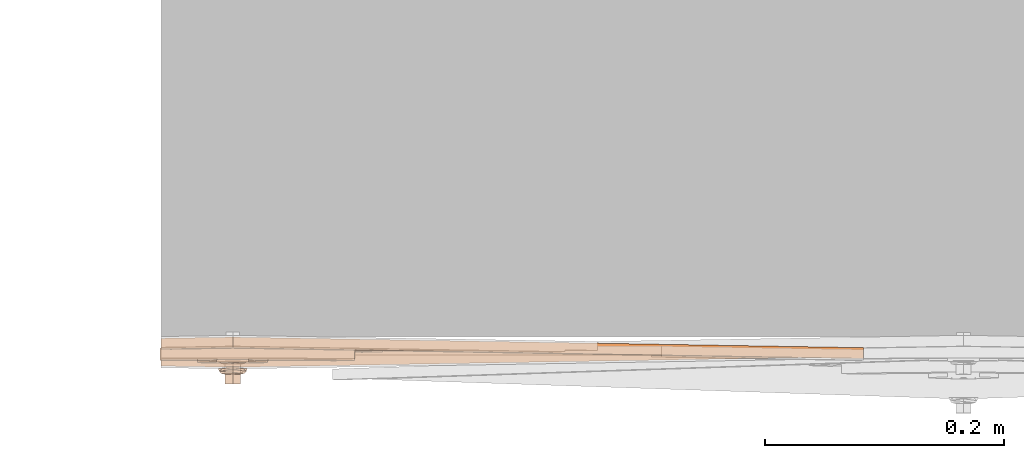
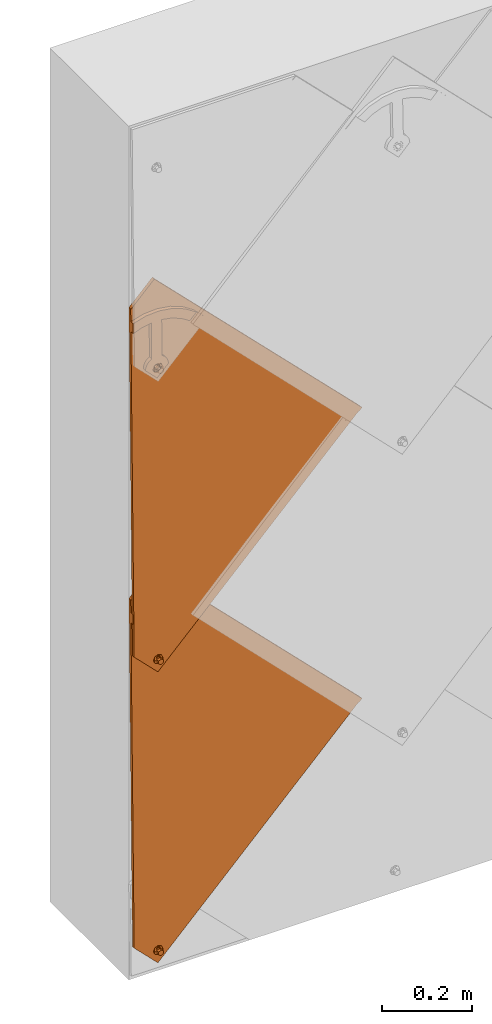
# One storey, part 1 of 151: 2 proxies.
"""IFC2X3 building model written with IfcOpenShell, lengths in millimetres."""

from ifc_helpers import new_model, entity, si_unit, converted_unit, derived_unit, direction, frame, origin, place, context, subcontext, project, spatial, faceted_brep, source, transform, mapped, material, material_list, type_object, type_shapes, element, save


model = new_model("IFC2X3")

# Units and contexts
model_context = context("Model", 3, precision=0.01, world=origin(), true_north=direction((6.12303176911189e-17, 1.0)))
body_context = subcontext(model_context, "Body", "Model", "MODEL_VIEW")
ifc_project = project(units=[si_unit("LENGTHUNIT", "METRE", prefix="MILLI"), si_unit("AREAUNIT", "SQUARE_METRE"), si_unit("VOLUMEUNIT", "CUBIC_METRE"), converted_unit("PLANEANGLEUNIT", "DEGREE", entity("IfcRatioMeasure", 0.0174532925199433), si_unit("PLANEANGLEUNIT", "RADIAN"), dimensions=[0, 0, 0, 0, 0, 0, 0]), si_unit("MASSUNIT", "GRAM", prefix="KILO"), derived_unit("MASSDENSITYUNIT", [(si_unit("MASSUNIT", "GRAM", prefix="KILO"), 1), (si_unit("LENGTHUNIT", "METRE"), -3)]), si_unit("TIMEUNIT", "SECOND"), si_unit("FREQUENCYUNIT", "HERTZ"), si_unit("THERMODYNAMICTEMPERATUREUNIT", "DEGREE_CELSIUS"), derived_unit("THERMALTRANSMITTANCEUNIT", [(si_unit("MASSUNIT", "GRAM", prefix="KILO"), 1), (si_unit("THERMODYNAMICTEMPERATUREUNIT", "KELVIN"), -1), (si_unit("TIMEUNIT", "SECOND"), -3)]), derived_unit("VOLUMETRICFLOWRATEUNIT", [(si_unit("LENGTHUNIT", "METRE"), 3), (si_unit("TIMEUNIT", "SECOND"), -1)]), si_unit("ELECTRICCURRENTUNIT", "AMPERE"), si_unit("ELECTRICVOLTAGEUNIT", "VOLT"), si_unit("POWERUNIT", "WATT"), si_unit("FORCEUNIT", "NEWTON", prefix="KILO"), si_unit("ILLUMINANCEUNIT", "LUX"), si_unit("LUMINOUSFLUXUNIT", "LUMEN"), si_unit("LUMINOUSINTENSITYUNIT", "CANDELA"), derived_unit("USERDEFINED", [(si_unit("MASSUNIT", "GRAM", prefix="KILO"), -1), (si_unit("LENGTHUNIT", "METRE"), -2), (si_unit("TIMEUNIT", "SECOND"), 3), (si_unit("LUMINOUSFLUXUNIT", "LUMEN"), 1)]), derived_unit("LINEARVELOCITYUNIT", [(si_unit("LENGTHUNIT", "METRE"), 1), (si_unit("TIMEUNIT", "SECOND"), -1)]), si_unit("PRESSUREUNIT", "PASCAL"), derived_unit("USERDEFINED", [(si_unit("LENGTHUNIT", "METRE"), -2), (si_unit("MASSUNIT", "GRAM", prefix="KILO"), 1), (si_unit("TIMEUNIT", "SECOND"), -2)])], contexts=[model_context])

# Site, building, storey
site_placement = place(None, origin())
site = spatial("IfcSite", under=ifc_project, at=site_placement, Name="Default", CompositionType="ELEMENT")
building_placement = place(site_placement, origin())
building = spatial("IfcBuilding", under=site, at=building_placement, CompositionType="ELEMENT")
storey_placement = place(building_placement, origin())
storey = spatial("IfcBuildingStorey", under=building, at=storey_placement, Name="Level 1", CompositionType="ELEMENT", Elevation=0.0)

# Proxies
ifc_material_1 = material(Name="Rubber - Sunstyle - Black")
ifc_material_2 = material(Name="Glass - Sunstyle - Tainted Terracotta")
ifc_material_list_1 = material_list([ifc_material_1, ifc_material_2])
ifc_material_list_2 = material_list([ifc_material_1, ifc_material_2])
building_element_proxy_type = type_object("IfcBuildingElementProxyType", Name="Shingle Left - Terracotta", PredefinedType="NOTDEFINED", material=ifc_material_list_2)
shared_shape = source(origin(), body_context, "Body", "Brep", [
    faceted_brep([(0.0, -484.792260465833, 4.00636906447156), (-5.77420283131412, -488.125530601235, 4.06219304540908), (-5.77420283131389, -487.757221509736, 26.0540623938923), (0.0, -484.423951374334, 25.9982384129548), (-5.77420283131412, -494.792070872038, 4.17384100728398), (-5.7742028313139, -494.42376178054, 26.1657103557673), (0.0, -498.12534100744, 4.22966498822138), (0.0, -497.757031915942, 26.2215343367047), (5.77420283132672, -494.792070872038, 4.17384100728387), (5.77420283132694, -494.42376178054, 26.1657103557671), (5.77420283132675, -488.125530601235, 4.06219304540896), (5.77420283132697, -487.757221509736, 26.0540623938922), (-8.60370416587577, -499.692989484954, 26.2539568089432), (0.0, -503.256260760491, 26.3136327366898), (-12.1674751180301, -491.090491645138, 26.1098863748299), (-8.60370416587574, -482.487993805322, 25.9658159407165), (0.0, -478.924722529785, 25.9061400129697), (8.60370416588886, -482.487993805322, 25.9658159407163), (12.1674751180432, -491.090491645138, 26.1098863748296), (8.60370416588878, -499.692989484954, 26.253956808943), (-11.324244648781, -488.795414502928, 28.4227283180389), (-9.75647455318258, -491.019476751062, 30.3502110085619), (0.0, -483.706401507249, 30.9829114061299), (0.0, -482.465903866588, 30.4025647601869), (0.0, -480.308353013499, 29.3931896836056), (0.0, -502.700216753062, 27.5886907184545), (0.0, -501.756640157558, 29.7523951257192), (0.0, -498.307264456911, 31.2274395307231), (0.0, -479.437758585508, 27.1991024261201), (-6.32324569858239, -494.657048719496, 31.1663074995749), (-6.32324569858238, -487.356617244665, 31.0440434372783), (11.3242446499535, -493.306834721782, 28.498283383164), (9.84888015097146, -492.093883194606, 30.2713428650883), (6.32324569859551, -487.356617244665, 31.0440434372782), (6.32324569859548, -494.657048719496, 31.1663074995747), (-6.32324569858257, -494.523020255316, 39.1691956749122), (0.0, -498.173235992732, 39.2303277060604), (0.0, -490.8728045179, 39.1080636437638), (-6.32324569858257, -487.222588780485, 39.0469316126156), (6.32324569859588, -494.523020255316, 39.1691956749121), (6.32324569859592, -487.222588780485, 39.0469316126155), (0.0, -483.572373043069, 38.9857995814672), (0.0, -491.458800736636, 4.11801702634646)], [[[0, 1, 2, 3]], [[1, 4, 5, 2]], [[4, 6, 7, 5]], [[6, 8, 9, 7]], [[8, 10, 11, 9]], [[10, 0, 3, 11]], [[12, 7, 13]], [[7, 12, 5]], [[14, 5, 12]], [[5, 14, 2]], [[15, 2, 14]], [[3, 2, 15]], [[15, 16, 3]], [[16, 17, 3]], [[11, 3, 17]], [[11, 17, 18]], [[9, 11, 18]], [[18, 19, 9]], [[7, 9, 19]], [[19, 13, 7]], [[20, 14, 12]], [[21, 22, 23, 24]], [[24, 20, 21]], [[25, 20, 12]], [[26, 27, 21]], [[15, 14, 20]], [[12, 13, 25]], [[20, 28, 15]], [[28, 20, 24]], [[21, 27, 29]], [[21, 29, 30]], [[26, 21, 20]], [[20, 25, 26]], [[15, 28, 16]], [[21, 30, 22]], [[31, 18, 17]], [[28, 31, 17]], [[32, 27, 26]], [[26, 31, 32]], [[26, 25, 31]], [[25, 19, 31]], [[17, 16, 28]], [[31, 19, 18]], [[24, 31, 28]], [[33, 34, 32]], [[23, 22, 33]], [[24, 32, 31]], [[27, 32, 34]], [[32, 23, 33]], [[19, 25, 13]], [[32, 24, 23]], [[35, 36, 37]], [[37, 38, 35]], [[36, 39, 37]], [[40, 37, 39]], [[37, 40, 41]], [[37, 41, 38]], [[42, 6, 4]], [[4, 1, 42]], [[1, 0, 42]], [[42, 8, 6]], [[0, 10, 42]], [[8, 42, 10]], [[22, 30, 38, 41]], [[30, 29, 35, 38]], [[29, 27, 36, 35]], [[27, 34, 39, 36]], [[34, 33, 40, 39]], [[33, 22, 41, 40]]]),
    faceted_brep([(0.0, 284.339364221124, 20.2838091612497), (0.0, 288.838732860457, 20.2084559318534), (-8.60370416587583, 287.902635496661, 20.224133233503), (8.60370416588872, 287.902635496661, 20.2241332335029), (6.64022859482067, 292.671933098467, 20.1442593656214), (12.1674751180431, 296.505133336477, 20.0800627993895), (6.64022859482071, 300.338333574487, 20.0158662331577), (8.6037041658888, 305.107631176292, 19.9359923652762), (0.0, 304.171533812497, 19.9516696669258), (0.0, 308.670902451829, 19.8763164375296), (-8.60370416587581, 305.107631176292, 19.9359923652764), (-6.64022859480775, 300.338333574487, 20.0158662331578), (-12.1674751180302, 296.505133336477, 20.0800627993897), (-6.64022859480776, 292.671933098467, 20.1442593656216), (-6.64022823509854, 300.070410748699, 4.01810959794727), (0.0, 303.90361077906, 3.95391303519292), (-6.64022823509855, 292.404010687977, 4.14650272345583), (0.0, 288.570810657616, 4.21069928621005), (6.64022823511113, 292.404010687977, 4.1465027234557), (6.64022823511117, 300.070410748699, 4.01810959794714), (-8.603704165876, 287.634712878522, 4.22637659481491), (0.0, 284.071441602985, 4.28605252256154), (-12.1674751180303, 296.237210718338, 4.08230616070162), (-8.60370416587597, 304.839708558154, 3.93823572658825), (0.0, 308.402979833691, 3.87855979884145), (8.60370416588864, 304.839708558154, 3.93823572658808), (12.1674751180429, 296.237210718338, 4.08230616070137), (8.60370416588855, 287.634712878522, 4.22637659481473)], [[[0, 1, 2]], [[1, 0, 3]], [[3, 4, 1]], [[4, 3, 5]], [[6, 4, 5]], [[5, 7, 6]], [[7, 8, 6]], [[8, 7, 9]], [[8, 9, 10]], [[10, 11, 8]], [[12, 11, 10]], [[2, 13, 12]], [[12, 13, 11]], [[13, 2, 1]], [[8, 11, 14, 15]], [[11, 13, 16, 14]], [[13, 1, 17, 16]], [[1, 4, 18, 17]], [[4, 6, 19, 18]], [[6, 8, 15, 19]], [[20, 17, 21]], [[17, 20, 16]], [[22, 16, 20]], [[14, 16, 22]], [[23, 14, 22]], [[15, 14, 23]], [[23, 24, 15]], [[24, 25, 15]], [[19, 15, 25]], [[19, 25, 26]], [[26, 18, 19]], [[26, 27, 18]], [[17, 18, 27]], [[27, 21, 17]], [[24, 23, 10, 9]], [[10, 23, 22, 12]], [[20, 21, 0, 2]], [[20, 2, 12, 22]], [[21, 27, 3, 0]], [[3, 27, 26, 5]], [[25, 24, 9, 7]], [[25, 7, 5, 26]]]),
    faceted_brep([(518.309865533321, -8.21171787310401, 16.4411500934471), (526.794551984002, 0.272968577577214, 16.299052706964), (526.794551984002, 0.298086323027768, 17.798842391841), (518.309865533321, -8.18660012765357, 17.9409397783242), (0.0, 509.952813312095, 7.76318349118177), (-51.6190674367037, 458.348219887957, 8.62743202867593), (-60.1037538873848, 466.832906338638, 8.48533464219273), (0.0, 526.919807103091, 7.47902856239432), (0.0, 526.944924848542, 8.97881824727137), (-60.1037538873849, 466.858024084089, 9.98512432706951), (-51.6190674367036, 458.373337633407, 10.1272217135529), (0.0, 509.977931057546, 9.26297317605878)], [[[0, 1, 2, 3]], [[1, 0, 4, 5, 6, 7]], [[2, 1, 7, 8]], [[3, 2, 8, 9, 10, 11]], [[0, 3, 11, 4]], [[5, 10, 9, 6]], [[8, 7, 6, 9]], [[4, 11, 10, 5]]]),
    faceted_brep([(3.08877637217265, 308.328619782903, 11.1398870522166), (0.0, 526.91980710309, 7.47902856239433), (-60.1037538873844, 466.832906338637, 8.48533464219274), (5.98294783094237, 307.129982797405, 11.1599612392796), (-0.0170521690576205, 308.737452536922, 11.133040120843), (8.46822920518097, 305.223226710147, 11.1918946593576), (10.3752526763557, 302.738293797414, 11.2335111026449), (11.5740577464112, 299.844528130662, 11.2819744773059), (526.794551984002, 0.272968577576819, 16.299052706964), (11.9829478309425, 296.739135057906, 11.3339820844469), (11.5740577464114, 293.63374198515, 11.3859896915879), (10.3752526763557, 290.739976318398, 11.4344530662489), (8.46822920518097, 288.255043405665, 11.4760695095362), (5.9829478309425, 286.348287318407, 11.5080029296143), (3.08877637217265, 285.149650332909, 11.5280771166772), (2.03352718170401, -483.329519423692, 24.3981910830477), (-60.1037538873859, -466.286969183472, 24.112770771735), (-0.0170521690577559, 284.74081757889, 11.5349240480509), (-3.12288071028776, 285.149650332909, 11.5280771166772), (-6.01705216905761, 286.348287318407, 11.5080029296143), (-8.50233354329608, 288.255043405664, 11.4760695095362), (-10.409357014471, 290.739976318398, 11.4344530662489), (-11.6081620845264, 293.63374198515, 11.3859896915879), (-12.0170521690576, 296.739135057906, 11.3339820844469), (-11.6081620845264, 299.844528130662, 11.2819744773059), (-10.4093570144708, 302.738293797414, 11.2335111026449), (-8.50233354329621, 305.223226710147, 11.1918946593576), (-6.01705216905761, 307.129982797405, 11.1599612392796), (-3.12288071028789, 308.328619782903, 11.1398870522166), (-0.0370251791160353, -483.056964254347, 24.3936264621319), (-2.10757753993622, -483.329519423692, 24.3981910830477), (-4.03702517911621, -484.128610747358, 24.411573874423), (-5.69387942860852, -485.399781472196, 24.4328628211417), (-6.96522840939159, -487.056403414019, 24.4606071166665), (-7.76443178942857, -488.985580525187, 24.4929160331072), (-8.03702517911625, -491.055842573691, 24.5275877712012), (-7.76443178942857, -493.126104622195, 24.5622595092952), (-6.96522840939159, -495.055281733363, 24.5945684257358), (0.0, -526.373869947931, 25.1190768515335), (-5.69387942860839, -496.711903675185, 24.6223127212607), (-4.03702517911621, -497.983074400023, 24.6436016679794), (-2.10757753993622, -498.782165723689, 24.6569844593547), (-0.0370251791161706, -499.054720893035, 24.6615490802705), (2.03352718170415, -498.782165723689, 24.6569844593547), (3.96297482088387, -497.983074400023, 24.6436016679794), (5.61982907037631, -496.711903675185, 24.6223127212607), (6.89117805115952, -495.055281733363, 24.5945684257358), (7.6903814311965, -493.126104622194, 24.5622595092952), (3.96297482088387, -484.128610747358, 24.411573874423), (5.61982907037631, -485.399781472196, 24.4328628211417), (6.89117805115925, -487.056403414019, 24.4606071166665), (7.6903814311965, -488.985580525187, 24.4929160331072), (7.96297482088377, -491.055842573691, 24.5275877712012), (-60.1037538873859, -466.412557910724, 16.6138223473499), (-6.96522840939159, -487.181992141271, 16.9616586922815), (-7.7644317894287, -489.111169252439, 16.9939676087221), (-5.69387942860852, -485.525370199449, 16.9339143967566), (-8.03702517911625, -491.181431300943, 17.0286393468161), (-7.76443178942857, -493.251693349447, 17.0633110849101), (-6.96522840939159, -495.180870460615, 17.0956200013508), (0.0, -526.499458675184, 17.6201284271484), (-4.03702517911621, -484.254199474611, 16.9126254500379), (-2.10757753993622, -483.455108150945, 16.8992426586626), (-0.0370251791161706, -483.182552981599, 16.8946780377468), (2.03352718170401, -483.455108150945, 16.8992426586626), (3.08877637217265, 285.024061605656, 4.02912869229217), (-0.0170521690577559, 284.615228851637, 4.03597562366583), (-3.12288071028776, 285.024061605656, 4.02912869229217), (-6.01705216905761, 286.222698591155, 4.00905450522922), (-8.50233354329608, 288.129454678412, 3.97712108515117), (-10.409357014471, 290.614387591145, 3.93550464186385), (-11.6081620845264, 293.508153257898, 3.88704126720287), (-60.1037538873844, 466.707317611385, 0.986386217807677), (-12.0170521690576, 296.613546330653, 3.83503366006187), (-11.6081620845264, 299.718939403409, 3.78302605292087), (-10.4093570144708, 302.612705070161, 3.73456267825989), (-8.50233354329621, 305.097637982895, 3.69294623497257), (-6.01705216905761, 307.004394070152, 3.66101281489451), (-3.12288071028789, 308.203031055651, 3.64093862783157), (-0.0170521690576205, 308.61186380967, 3.63409169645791), (3.08877637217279, 308.203031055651, 3.64093862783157), (0.0, 526.794218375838, -0.0199198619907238), (5.98294783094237, 307.004394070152, 3.66101281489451), (8.46822920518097, 305.097637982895, 3.69294623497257), (10.3752526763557, 302.612705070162, 3.73456267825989), (11.5740577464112, 299.718939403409, 3.78302605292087), (526.794551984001, 0.147379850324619, 8.8001042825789), (3.96297482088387, -484.254199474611, 16.9126254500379), (5.61982907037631, -485.525370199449, 16.9339143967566), (7.6903814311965, -493.251693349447, 17.0633110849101), (7.96297482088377, -491.181431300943, 17.0286393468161), (7.6903814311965, -489.111169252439, 16.9939676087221), (6.89117805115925, -487.181992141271, 16.9616586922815), (5.9829478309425, 286.222698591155, 4.00905450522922), (8.46822920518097, 288.129454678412, 3.97712108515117), (11.9829478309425, 296.613546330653, 3.83503366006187), (11.5740577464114, 293.508153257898, 3.88704126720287), (10.3752526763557, 290.614387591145, 3.93550464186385), (-5.69387942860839, -496.837492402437, 17.1233642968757), (-4.03702517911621, -498.108663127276, 17.1446532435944), (-2.10757753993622, -498.907754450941, 17.1580360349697), (-0.0370251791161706, -499.180309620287, 17.1626006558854), (2.03352718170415, -498.907754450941, 17.1580360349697), (3.96297482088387, -498.108663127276, 17.1446532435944), (5.61982907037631, -496.837492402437, 17.1233642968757), (6.89117805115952, -495.180870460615, 17.0956200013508)], [[[0, 1, 2]], [[0, 3, 1]], [[4, 0, 2]], [[1, 3, 5]], [[6, 1, 5]], [[7, 1, 6]], [[7, 8, 1]], [[9, 8, 7]], [[8, 9, 10]], [[8, 10, 11]], [[11, 12, 8]], [[12, 13, 8]], [[13, 14, 8]], [[14, 15, 8]], [[14, 16, 15]], [[16, 14, 17]], [[16, 17, 18]], [[16, 18, 19]], [[20, 16, 19]], [[20, 21, 16]], [[21, 22, 16]], [[23, 2, 22]], [[2, 16, 22]], [[23, 24, 2]], [[25, 2, 24]], [[25, 26, 2]], [[26, 27, 2]], [[28, 2, 27]], [[4, 2, 28]], [[16, 29, 15]], [[29, 16, 30]], [[30, 16, 31]], [[16, 32, 31]], [[32, 16, 33]], [[33, 16, 34]], [[35, 34, 16]], [[35, 16, 36]], [[37, 36, 16]], [[16, 38, 37]], [[39, 37, 38]], [[40, 39, 38]], [[41, 40, 38]], [[38, 42, 41]], [[42, 38, 43]], [[44, 43, 38]], [[44, 38, 45]], [[46, 45, 38]], [[47, 46, 38]], [[47, 38, 8]], [[48, 8, 15]], [[48, 49, 8]], [[50, 8, 49]], [[51, 8, 50]], [[52, 47, 8]], [[52, 8, 51]], [[53, 54, 55]], [[54, 53, 56]], [[53, 55, 57]], [[57, 58, 53]], [[58, 59, 53]], [[53, 59, 60]], [[61, 56, 53]], [[62, 61, 53]], [[62, 53, 63]], [[64, 63, 53]], [[53, 65, 64]], [[65, 53, 66]], [[66, 53, 67]], [[67, 53, 68]], [[69, 68, 53]], [[70, 69, 53]], [[71, 70, 53]], [[71, 53, 72]], [[73, 71, 72]], [[74, 73, 72]], [[75, 74, 72]], [[76, 75, 72]], [[72, 77, 76]], [[78, 77, 72]], [[79, 78, 72]], [[79, 72, 80]], [[80, 72, 81]], [[82, 80, 81]], [[81, 83, 82]], [[83, 81, 84]], [[84, 81, 85]], [[86, 85, 81]], [[64, 86, 87]], [[88, 87, 86]], [[60, 89, 86]], [[90, 86, 89]], [[90, 91, 86]], [[91, 92, 86]], [[88, 86, 92]], [[65, 86, 64]], [[65, 93, 86]], [[93, 94, 86]], [[86, 95, 85]], [[95, 86, 96]], [[97, 96, 86]], [[97, 86, 94]], [[98, 60, 59]], [[98, 99, 60]], [[99, 100, 60]], [[101, 60, 100]], [[60, 101, 102]], [[60, 102, 103]], [[103, 104, 60]], [[104, 105, 60]], [[105, 89, 60]], [[2, 1, 81, 72]], [[38, 16, 53, 60]], [[8, 38, 60, 86]], [[1, 8, 86, 81]], [[35, 57, 55, 34]], [[34, 55, 54, 33]], [[31, 32, 56, 61]], [[56, 32, 33, 54]], [[30, 31, 61, 62]], [[30, 62, 63, 29]], [[29, 63, 64, 15]], [[15, 64, 87, 48]], [[50, 49, 88, 92]], [[88, 49, 48, 87]], [[51, 50, 92, 91]], [[51, 91, 90, 52]], [[52, 90, 89, 47]], [[47, 89, 105, 46]], [[44, 45, 104, 103]], [[104, 45, 46, 105]], [[43, 44, 103, 102]], [[43, 102, 101, 42]], [[42, 101, 100, 41]], [[41, 100, 99, 40]], [[37, 39, 98, 59]], [[98, 39, 40, 99]], [[36, 37, 59, 58]], [[36, 58, 57, 35]], [[23, 73, 74, 24]], [[24, 74, 75, 25]], [[27, 26, 76, 77]], [[76, 26, 25, 75]], [[28, 27, 77, 78]], [[28, 78, 79, 4]], [[4, 79, 80, 0]], [[0, 80, 82, 3]], [[6, 5, 83, 84]], [[83, 5, 3, 82]], [[7, 6, 84, 85]], [[7, 85, 95, 9]], [[9, 95, 96, 10]], [[10, 96, 97, 11]], [[13, 12, 94, 93]], [[94, 12, 11, 97]], [[14, 13, 93, 65]], [[14, 65, 66, 17]], [[17, 66, 67, 18]], [[18, 67, 68, 19]], [[21, 20, 69, 70]], [[69, 20, 19, 68]], [[22, 21, 70, 71]], [[22, 71, 73, 23]], [[16, 2, 72, 53]]]),
    faceted_brep([(-60.2957264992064, 433.002673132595, 19.0533091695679), (-60.2957264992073, 406.276440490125, 19.5009070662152), (-37.4519584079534, 414.732964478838, 19.3592813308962), (-27.2461400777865, 442.315205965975, 18.8973474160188), (-13.4919726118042, 419.124350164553, 19.2857365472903), (7.02526451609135, 444.434715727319, 18.8618509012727), (13.1080273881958, 419.12435016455, 19.2857365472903), (13.1080273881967, 322.716549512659, 20.9003273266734), (-13.4919726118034, 322.716549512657, 20.9003273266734), (-0.191972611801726, 308.510747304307, 21.1382391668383), (-3.29780115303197, 308.101914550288, 21.145086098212), (-6.19197261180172, 306.90327756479, 21.1651602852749), (-18.8960787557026, 319.178501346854, 20.9595808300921), (-8.67725398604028, 304.996521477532, 21.197093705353), (-23.3966230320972, 314.545495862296, 21.0371721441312), (-10.584277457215, 302.511588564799, 21.2387101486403), (-26.776192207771, 309.041345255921, 21.1293529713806), (-11.7830825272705, 299.617822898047, 21.2871735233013), (-28.8715253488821, 302.931945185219, 21.231670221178), (-12.1919726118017, 296.512429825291, 21.3391811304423), (-29.5814006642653, 296.512429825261, 21.3391811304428), (-11.7830825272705, 293.407036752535, 21.3911887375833), (-10.5842774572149, 290.513271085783, 21.4396521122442), (-8.67725398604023, 288.028338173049, 21.4812685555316), (-0.191972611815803, 267.127122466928, 21.8313119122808), (-6.19197261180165, 286.121582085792, 21.5132019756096), (-3.2978011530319, 284.922945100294, 21.5332761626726), (-0.19197261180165, 284.514112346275, 21.5401230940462), (2.9138559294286, 284.922945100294, 21.5332761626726), (5.80802738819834, 286.121582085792, 21.5132019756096), (8.29330876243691, 288.028338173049, 21.4812685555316), (29.197455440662, 296.512429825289, 21.3391811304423), (10.2003322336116, 290.513271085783, 21.4396521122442), (11.3991373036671, 293.407036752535, 21.3911887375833), (11.8080273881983, 296.512429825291, 21.3391811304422), (28.4875801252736, 302.931945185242, 21.2316702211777), (11.3991373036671, 299.617822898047, 21.2871735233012), (26.3922469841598, 309.041345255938, 21.1293529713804), (10.2003322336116, 302.511588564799, 21.2387101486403), (23.0126778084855, 314.545495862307, 21.037172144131), (8.29330876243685, 304.996521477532, 21.197093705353), (18.5121335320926, 319.178501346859, 20.959580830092), (5.80802738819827, 306.90327756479, 21.1651602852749), (2.91385592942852, 308.101914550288, 21.145086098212), (40.9707248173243, 439.265481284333, 18.9484227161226), (38.5777701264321, 414.309469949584, 19.3663738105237), (73.0571986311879, 427.0409551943, 19.1531531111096), (62.7323605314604, 404.905836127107, 19.523861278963), (84.7524233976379, 391.232440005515, 19.7528566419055), (101.835599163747, 408.313220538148, 19.4667960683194), (-10.5842774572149, 290.345819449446, 11.4410542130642), (-29.5814006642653, 296.344978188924, 11.3405832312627), (-11.7830825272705, 293.239585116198, 11.3925908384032), (-8.67725398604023, 287.860886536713, 11.4826706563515), (-0.191972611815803, 266.959670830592, 11.8327140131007), (-6.19197261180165, 285.954130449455, 11.5146040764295), (-3.2978011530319, 284.755493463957, 11.5346782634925), (-0.19197261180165, 284.346660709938, 11.5415251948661), (2.9138559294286, 284.755493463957, 11.5346782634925), (5.80802738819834, 285.954130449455, 11.5146040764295), (8.29330876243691, 287.860886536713, 11.4826706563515), (29.197455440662, 296.344978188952, 11.3405832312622), (10.2003322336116, 290.345819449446, 11.4410542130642), (11.3991373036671, 293.239585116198, 11.3925908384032), (11.8080273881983, 296.344978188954, 11.3405832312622), (28.4875801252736, 302.764493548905, 11.2330723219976), (11.3991373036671, 299.45037126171, 11.2885756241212), (26.3922469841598, 308.873893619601, 11.1307550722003), (10.2003322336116, 302.344136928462, 11.2401122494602), (23.0126778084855, 314.378044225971, 11.038574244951), (8.29330876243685, 304.829069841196, 11.1984958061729), (18.5121335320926, 319.011049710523, 10.960982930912), (5.80802738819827, 306.735825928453, 11.1665623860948), (13.1080273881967, 322.549097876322, 10.9017294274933), (2.91385592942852, 307.934462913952, 11.1464881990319), (-0.191972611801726, 308.34329566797, 11.1396412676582), (-13.4919726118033, 322.54909787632, 10.9017294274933), (-3.29780115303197, 307.934462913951, 11.1464881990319), (-6.19197261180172, 306.735825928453, 11.1665623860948), (-18.8960787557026, 319.011049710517, 10.9609829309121), (-8.67725398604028, 304.829069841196, 11.1984958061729), (-23.3966230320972, 314.37804422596, 11.0385742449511), (-10.584277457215, 302.344136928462, 11.2401122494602), (-26.776192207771, 308.873893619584, 11.1307550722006), (-11.7830825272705, 299.45037126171, 11.2885756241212), (-28.8715253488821, 302.764493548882, 11.233072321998), (-12.1919726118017, 296.344978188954, 11.3405832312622), (-13.4919726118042, 418.956898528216, 9.28713864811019), (13.1080273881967, 418.956898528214, 9.28713864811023), (7.02526451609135, 444.267264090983, 8.86325300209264), (-27.2461400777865, 442.147754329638, 8.89874951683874), (-37.4519584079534, 414.565512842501, 9.36068343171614), (-60.2957264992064, 432.835221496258, 9.05471127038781), (-60.2957264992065, 406.108988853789, 9.5023091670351), (40.9707248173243, 439.098029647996, 8.94982481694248), (38.5777701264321, 414.142018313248, 9.36777591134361), (73.0571986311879, 426.873503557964, 9.15455521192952), (62.7323605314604, 404.738384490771, 9.5252633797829), (84.9699227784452, 391.282457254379, 9.75061668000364), (101.363550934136, 407.672574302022, 9.47612300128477), (101.835599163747, 408.145768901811, 9.46819816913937), (107.666988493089, 402.274283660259, 9.56653093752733), (113.684870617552, 396.559480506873, 9.66223967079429), (108.027097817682, 368.228515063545, 10.1367128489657), (125.024248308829, 385.223282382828, 9.85209278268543), (84.7524233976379, 391.064988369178, 9.75425874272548), (125.024248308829, 385.265145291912, 12.3517422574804), (113.684870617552, 396.601343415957, 12.1618891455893), (107.666988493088, 402.316146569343, 12.0661804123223), (101.362944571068, 407.715043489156, 11.975762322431), (84.9693798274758, 391.324863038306, 12.2502570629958), (108.027097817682, 368.270377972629, 12.6363623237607)], [[[0, 1, 2]], [[0, 2, 3]], [[2, 4, 3]], [[3, 4, 5]], [[5, 4, 6]], [[7, 6, 4]], [[7, 4, 8]], [[9, 7, 8]], [[9, 8, 10]], [[10, 8, 11]], [[12, 11, 8]], [[11, 12, 13]], [[14, 13, 12]], [[13, 14, 15]], [[15, 14, 16]], [[17, 15, 16]], [[18, 17, 16]], [[18, 19, 17]], [[19, 18, 20]], [[20, 21, 19]], [[20, 22, 21]], [[22, 20, 23]], [[23, 20, 24]], [[24, 25, 23]], [[26, 25, 24]], [[24, 27, 26]], [[28, 27, 24]], [[28, 24, 29]], [[30, 29, 24]], [[30, 24, 31]], [[31, 32, 30]], [[33, 32, 31]], [[31, 34, 33]], [[35, 34, 31]], [[34, 35, 36]], [[36, 35, 37]], [[36, 37, 38]], [[38, 37, 39]], [[39, 40, 38]], [[39, 41, 40]], [[7, 42, 41]], [[40, 41, 42]], [[42, 7, 43]], [[43, 7, 9]], [[44, 5, 6]], [[44, 6, 45]], [[45, 46, 44]], [[46, 45, 47]], [[47, 48, 46]], [[49, 46, 48]], [[50, 51, 52]], [[51, 50, 53]], [[54, 51, 53]], [[53, 55, 54]], [[56, 54, 55]], [[57, 54, 56]], [[57, 58, 54]], [[58, 59, 54]], [[60, 54, 59]], [[60, 61, 54]], [[60, 62, 61]], [[62, 63, 61]], [[63, 64, 61]], [[64, 65, 61]], [[65, 64, 66]], [[66, 67, 65]], [[68, 67, 66]], [[67, 68, 69]], [[69, 68, 70]], [[71, 69, 70]], [[71, 70, 72]], [[72, 73, 71]], [[72, 74, 73]], [[75, 73, 74]], [[76, 73, 75]], [[77, 76, 75]], [[76, 77, 78]], [[79, 76, 78]], [[78, 80, 79]], [[81, 79, 80]], [[81, 80, 82]], [[81, 82, 83]], [[82, 84, 83]], [[84, 85, 83]], [[86, 85, 84]], [[52, 51, 86]], [[85, 86, 51]], [[73, 76, 87]], [[88, 73, 87]], [[88, 87, 89]], [[90, 89, 87]], [[87, 91, 90]], [[91, 92, 90]], [[93, 92, 91]], [[88, 89, 94]], [[88, 94, 95]], [[96, 95, 94]], [[96, 97, 95]], [[98, 97, 96]], [[96, 99, 98]], [[96, 100, 99]], [[98, 99, 101]], [[102, 98, 101]], [[98, 102, 103]], [[104, 103, 102]], [[105, 97, 98]], [[8, 4, 87, 76]], [[12, 8, 76, 79]], [[14, 12, 79, 81]], [[81, 83, 16, 14]], [[18, 16, 83, 85]], [[20, 18, 85, 51]], [[24, 20, 51, 54]], [[31, 24, 54, 61]], [[35, 31, 61, 65]], [[37, 35, 65, 67]], [[67, 69, 39, 37]], [[41, 39, 69, 71]], [[7, 41, 71, 73]], [[6, 7, 73, 88]], [[46, 49, 100, 96]], [[44, 46, 96, 94]], [[94, 89, 5, 44]], [[3, 5, 89, 90]], [[3, 90, 92, 0]], [[19, 86, 84, 17]], [[17, 84, 82, 15]], [[11, 13, 80, 78]], [[82, 80, 13, 15]], [[10, 11, 78, 77]], [[75, 9, 10, 77]], [[43, 74, 72, 42]], [[42, 72, 70, 40]], [[36, 38, 68, 66]], [[70, 68, 38, 40]], [[34, 36, 66, 64]], [[43, 9, 75, 74]], [[34, 64, 63, 33]], [[33, 63, 62, 32]], [[29, 30, 60, 59]], [[62, 60, 30, 32]], [[28, 29, 59, 58]], [[57, 27, 28, 58]], [[26, 56, 55, 25]], [[25, 55, 53, 23]], [[21, 22, 50, 52]], [[53, 50, 22, 23]], [[19, 21, 52, 86]], [[26, 27, 57, 56]], [[106, 107, 108, 109, 110, 111]], [[107, 106, 104, 102]], [[106, 111, 103, 104]], [[107, 102, 101, 108]], [[101, 99, 109]], [[101, 109, 108]], [[111, 110, 98, 103]], [[48, 110, 109]], [[110, 48, 105]], [[49, 48, 109, 100]], [[105, 98, 110]], [[99, 100, 109]], [[93, 91, 2, 1]], [[87, 4, 2, 91]], [[88, 95, 45, 6]], [[95, 97, 47, 45]], [[97, 105, 48, 47]], [[1, 0, 92, 93]]]),
])
type_shapes(building_element_proxy_type, [shared_shape])
proxy_1_placement = place(storey_placement, frame((-14307.7909551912, -13191.873651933, 1581.22675427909), z_axis=(0.0, -1.0, 0.0), x_axis=(1.0, 0.0, 0.0)))
element("IfcBuildingElementProxy", 1, at=proxy_1_placement, inside=storey, type_object=building_element_proxy_type, material=ifc_material_list_1, Name="Roofing_Panels_SunStyle_Tile_Shingle-Left:Shingle Left - Terracotta", ObjectType="Roofing_Panels_SunStyle_Tile_Shingle-Left:Shingle Left - Terracotta", context=body_context, shape_type="MappedRepresentation", body=[
    mapped(shared_shape, transform((0.0, 0.0, 0.0), scale=1.0)),
])
ifc_material_list_3 = material_list([ifc_material_1, ifc_material_2])
proxy_2_placement = place(storey_placement, frame((-14307.7909551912, -13191.873651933, 793.631129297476), z_axis=(0.0, -1.0, 0.0), x_axis=(1.0, 0.0, 0.0)))
element("IfcBuildingElementProxy", 2, at=proxy_2_placement, inside=storey, type_object=building_element_proxy_type, material=ifc_material_list_3, Name="Roofing_Panels_SunStyle_Tile_Shingle-Left:Shingle Left - Terracotta", ObjectType="Roofing_Panels_SunStyle_Tile_Shingle-Left:Shingle Left - Terracotta", context=body_context, shape_type="MappedRepresentation", body=[
    mapped(shared_shape, transform((0.0, 0.0, 0.0), scale=1.0)),
])

save(model, "model.ifc")
